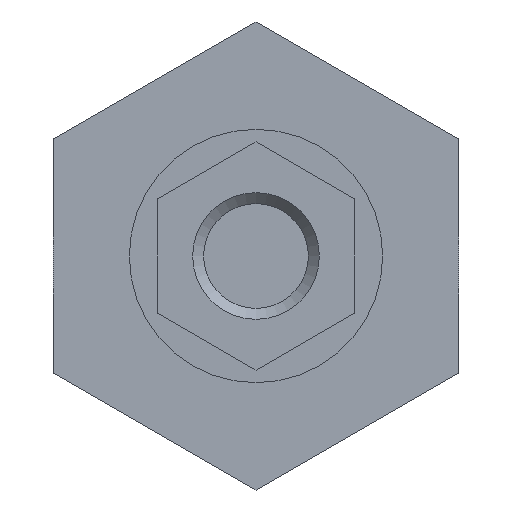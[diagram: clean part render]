
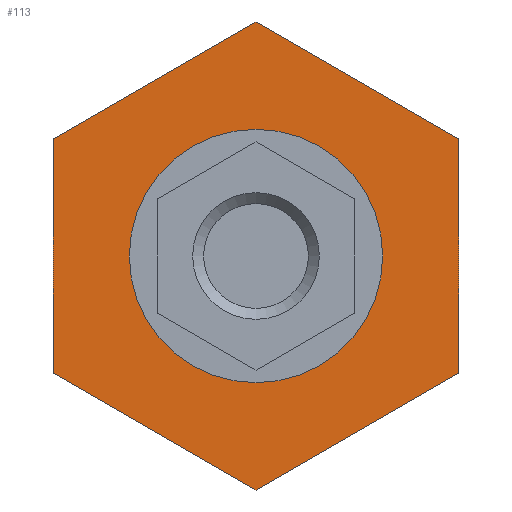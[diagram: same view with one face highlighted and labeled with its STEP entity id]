
A CAD part, front view. The second image highlights one B-rep face of the part: STEP entity #113.
In plain terms, the highlighted planar face has unit normal (0, -1, 0).
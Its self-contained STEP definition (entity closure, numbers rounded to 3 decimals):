
#113 = ADVANCED_FACE( '', ( #303, #304 ), #305, .F. );
#303 = FACE_BOUND( '', #594, .T. );
#304 = FACE_OUTER_BOUND( '', #595, .T. );
#305 = PLANE( '', #596 );
#594 = EDGE_LOOP( '', ( #886 ) );
#595 = EDGE_LOOP( '', ( #887, #888, #889, #890, #891, #892 ) );
#596 = AXIS2_PLACEMENT_3D( '', #893, #894, #895 );
#886 = ORIENTED_EDGE( '', *, *, #1562, .F. );
#887 = ORIENTED_EDGE( '', *, *, #1563, .F. );
#888 = ORIENTED_EDGE( '', *, *, #1564, .F. );
#889 = ORIENTED_EDGE( '', *, *, #1565, .F. );
#890 = ORIENTED_EDGE( '', *, *, #1566, .F. );
#891 = ORIENTED_EDGE( '', *, *, #1567, .F. );
#892 = ORIENTED_EDGE( '', *, *, #1568, .F. );
#893 = CARTESIAN_POINT( '', ( 0., -15.6, 0. ) );
#894 = DIRECTION( '', ( 0., 1., 0. ) );
#895 = DIRECTION( '', ( 0., 0., 1. ) );
#1562 = EDGE_CURVE( '', #1824, #1824, #1825, .F. );
#1563 = EDGE_CURVE( '', #1826, #1827, #1828, .T. );
#1564 = EDGE_CURVE( '', #1829, #1826, #1830, .T. );
#1565 = EDGE_CURVE( '', #1831, #1829, #1832, .T. );
#1566 = EDGE_CURVE( '', #1833, #1831, #1834, .T. );
#1567 = EDGE_CURVE( '', #1835, #1833, #1836, .T. );
#1568 = EDGE_CURVE( '', #1827, #1835, #1837, .T. );
#1824 = VERTEX_POINT( '', #2201 );
#1825 = CIRCLE( '', #2202, 5. );
#1826 = VERTEX_POINT( '', #2203 );
#1827 = VERTEX_POINT( '', #2204 );
#1828 = LINE( '', #2205, #2206 );
#1829 = VERTEX_POINT( '', #2207 );
#1830 = LINE( '', #2208, #2209 );
#1831 = VERTEX_POINT( '', #2210 );
#1832 = LINE( '', #2211, #2212 );
#1833 = VERTEX_POINT( '', #2213 );
#1834 = LINE( '', #2214, #2215 );
#1835 = VERTEX_POINT( '', #2216 );
#1836 = LINE( '', #2217, #2218 );
#1837 = LINE( '', #2219, #2220 );
#2201 = CARTESIAN_POINT( '', ( 0., -15.6, 5. ) );
#2202 = AXIS2_PLACEMENT_3D( '', #2695, #2696, #2697 );
#2203 = CARTESIAN_POINT( '', ( -8., -15.6, -4.619 ) );
#2204 = CARTESIAN_POINT( '', ( -8., -15.6, 4.619 ) );
#2205 = CARTESIAN_POINT( '', ( -8., -15.6, -4.619 ) );
#2206 = VECTOR( '', #2698, 1000. );
#2207 = CARTESIAN_POINT( '', ( 0., -15.6, -9.238 ) );
#2208 = CARTESIAN_POINT( '', ( 0., -15.6, -9.238 ) );
#2209 = VECTOR( '', #2699, 1000. );
#2210 = CARTESIAN_POINT( '', ( 8., -15.6, -4.619 ) );
#2211 = CARTESIAN_POINT( '', ( 8., -15.6, -4.619 ) );
#2212 = VECTOR( '', #2700, 1000. );
#2213 = CARTESIAN_POINT( '', ( 8., -15.6, 4.619 ) );
#2214 = CARTESIAN_POINT( '', ( 8., -15.6, 4.619 ) );
#2215 = VECTOR( '', #2701, 1000. );
#2216 = CARTESIAN_POINT( '', ( 0., -15.6, 9.238 ) );
#2217 = CARTESIAN_POINT( '', ( 0., -15.6, 9.238 ) );
#2218 = VECTOR( '', #2702, 1000. );
#2219 = CARTESIAN_POINT( '', ( -8., -15.6, 4.619 ) );
#2220 = VECTOR( '', #2703, 1000. );
#2695 = CARTESIAN_POINT( '', ( 0., -15.6, 0. ) );
#2696 = DIRECTION( '', ( 0., 1., 0. ) );
#2697 = DIRECTION( '', ( 0., 0., 1. ) );
#2698 = DIRECTION( '', ( 0., 0., 1. ) );
#2699 = DIRECTION( '', ( -0.866, 0., 0.5 ) );
#2700 = DIRECTION( '', ( -0.866, 0., -0.5 ) );
#2701 = DIRECTION( '', ( 0., 0., -1. ) );
#2702 = DIRECTION( '', ( 0.866, 0., -0.5 ) );
#2703 = DIRECTION( '', ( 0.866, 0., 0.5 ) );
